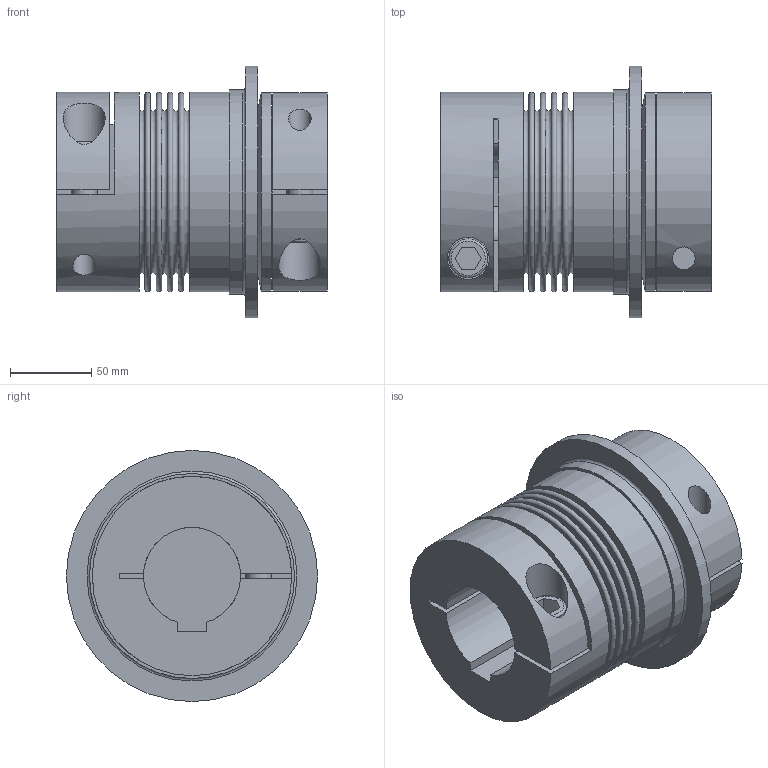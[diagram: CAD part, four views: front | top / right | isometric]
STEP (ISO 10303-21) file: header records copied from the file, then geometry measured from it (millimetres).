
FILE_DESCRIPTION(/* description */ ('STEP AP214'),/* implementation_level */ '2;1');
FILE_NAME(/* name */ 'C:\Diequa Files\DieQua Coupling\TB2\STP\TB2.500.167.F.#.#.stp',/* time_stamp */ '2019-04-26T10:39:56-05:00',/* author */ ('DiequaCAD'),/* organization */ (''),/* preprocessor_version */ 'ST-DEVELOPER v18',/* originating_system */ 'Autodesk Inventor 2020',/* authorisation */ ' ');
FILE_SCHEMA (('AUTOMOTIVE_DESIGN { 1 0 10303 214 3 1 1 }'));
Length unit declared in the file: millimetre
Products named in the file (1): TB2.500.167.F.#.#
Bounding box: 167 x 155 x 155 mm (x, y, z)
Volume: 1616308.2 mm3; surface area: 197700.2 mm2
Topology: 1 solids, 1 shells, 90 faces, 212 edges, 148 vertices
Faces by surface type: plane 57, cylinder 20, torus 12, cone 1
Full cylindrical faces by diameter (mm): 14 x2, 16 x2, 17.5 x2, 24 x2, 26 x2, 98.7 x1, 122.5 x1, 123 x2, 126.5 x1, 155 x1
Entity records: 2865 total; most frequent: CARTESIAN_POINT 611, DIRECTION 491, ORIENTED_EDGE 424, EDGE_CURVE 212, AXIS2_PLACEMENT_3D 194, VERTEX_POINT 148, EDGE_LOOP 118, LINE 103
